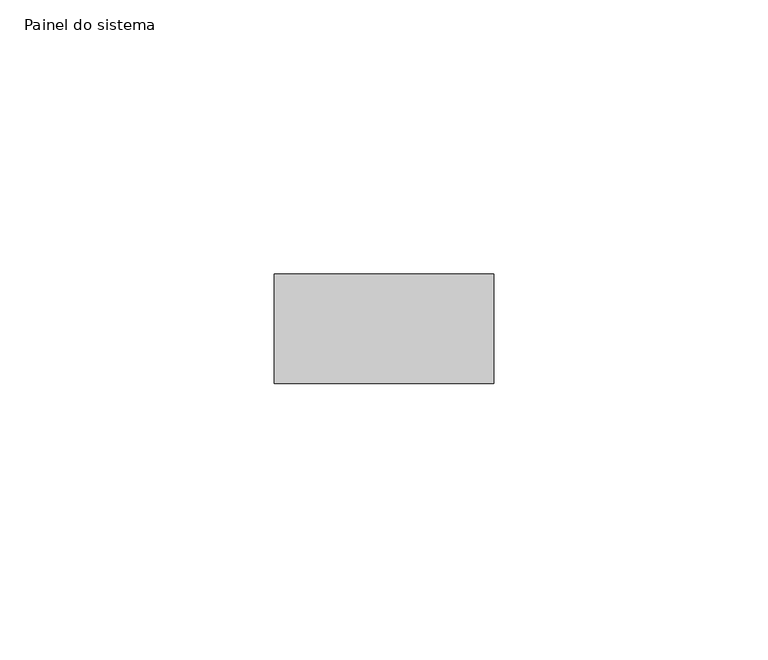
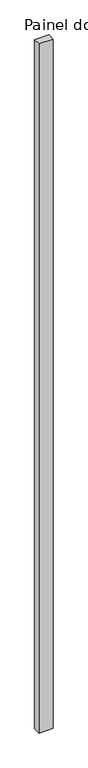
"""IFC4 building model written with IfcOpenShell, lengths in millimetres: plate geometry, Painel do sistema : Envidraçado."""

import ifcopenshell
import ifcopenshell.guid

model = None  # the IFC model being written
_history = None  # IfcOwnerHistory: only IFC2X3 demands one
_inside = {}  # id of a spatial element -> (the spatial element, [elements in it])
_under = {}  # id of a project, library or spatial element -> (it, [spatial elements below it])
_declared = {}  # id of a project -> (the project, [libraries it declares])
_typed = {}  # id of a type object -> (the type object, [elements of that type])
_made_of = {}  # id of a material, layer set ... -> (it, [elements and type objects made of it])


def new_model(schema):
    """Start an empty IFC model of exactly this schema.

    Asked for "IFC4X3", IfcOpenShell would pick the latest addendum, in which some entities
    have other attributes; the version numbers below select the first issue.
    IFC2X3 requires an IfcOwnerHistory on every rooted entity: one is made here for all.
    """
    global model, _history
    if schema == "IFC4X3":
        model = ifcopenshell.file(schema_version=(4, 3, 0, 0))
    else:
        model = ifcopenshell.file(schema=schema)
    _inside.clear()
    _under.clear()
    _declared.clear()
    _typed.clear()
    _made_of.clear()
    _history = None
    if model.schema == "IFC2X3":
        org = make("IfcOrganization", Name="unknown")
        user = make(
            "IfcPersonAndOrganization",
            ThePerson=make("IfcPerson", FamilyName="unknown"),
            TheOrganization=org,
        )
        app = make(
            "IfcApplication",
            ApplicationDeveloper=org,
            Version="unknown",
            ApplicationFullName="unknown",
            ApplicationIdentifier="unknown",
        )
        _history = make(
            "IfcOwnerHistory",
            OwningUser=user,
            OwningApplication=app,
            ChangeAction="ADDED",
            CreationDate=0,
        )
    return model


def make(cls, **values):
    """One entity of the class cls with the attributes given. An attribute that is None is left unset."""
    return model.create_entity(
        cls, **{name: value for name, value in values.items() if value is not None}
    )


def rooted(cls, **values):
    """An entity with a GlobalId (a new one), such as an element, a storey or a relation."""
    return make(cls, GlobalId=ifcopenshell.guid.new(), OwnerHistory=_history, **values)


def si_unit(unit_type, name, prefix=None):
    """IfcSIUnit, for example si_unit("LENGTHUNIT", "METRE", prefix="MILLI")."""
    return make("IfcSIUnit", UnitType=unit_type, Prefix=prefix, Name=name)


def assignment(units):
    """IfcUnitAssignment: the units of a project."""
    return None if units is None else make("IfcUnitAssignment", Units=units)


def point(xyz):
    """IfcCartesianPoint."""
    return None if xyz is None else make("IfcCartesianPoint", Coordinates=xyz)


def direction(xyz):
    """IfcDirection."""
    return None if xyz is None else make("IfcDirection", DirectionRatios=xyz)


def frame(location, z_axis=None, x_axis=None):
    """IfcAxis2Placement3D, a coordinate frame: its origin and axes. An axis left out is left unset."""
    return make(
        "IfcAxis2Placement3D",
        Location=point(location),
        Axis=direction(z_axis),
        RefDirection=direction(x_axis),
    )


def origin():
    """The frame at (0, 0, 0) with its axes left unset."""
    return frame((0.0, 0.0, 0.0))


def origin_with_axes():
    """The frame at (0, 0, 0) with the z axis (0, 0, 1) and the x axis (1, 0, 0) written out."""
    return frame((0.0, 0.0, 0.0), z_axis=(0.0, 0.0, 1.0), x_axis=(1.0, 0.0, 0.0))


def place(relative_to, where):
    """IfcLocalPlacement: puts the frame where relative to a parent placement (None: the world)."""
    return make(
        "IfcLocalPlacement", PlacementRelTo=relative_to, RelativePlacement=where
    )


def context(
    kind, dimensions, precision=None, world=None, true_north=None, identifier=None
):
    """IfcGeometricRepresentationContext, for example the 3D "Model" context."""
    return make(
        "IfcGeometricRepresentationContext",
        ContextIdentifier=identifier,
        ContextType=kind,
        CoordinateSpaceDimension=dimensions,
        Precision=precision,
        WorldCoordinateSystem=world,
        TrueNorth=true_north,
    )


def project(units=None, contexts=None):
    """IfcProject with its units and contexts."""
    return rooted(
        "IfcProject",
        Name="project",
        RepresentationContexts=contexts,
        UnitsInContext=assignment(units),
    )


def spatial(cls, under=None, at=None, **own):
    """A site, building, storey or space (cls), placed at a placement, below another one or the project."""
    s = rooted(cls, ObjectPlacement=at, **own)
    if under is not None:
        _under.setdefault(under.id(), (under, []))[1].append(s)
    return s


def polyline(points):
    """IfcPolyline through the points."""
    return make("IfcPolyline", Points=[point(p) for p in points])


def outline(outer, holes=None, kind="AREA"):
    """IfcArbitraryClosedProfileDef: a profile drawn as a closed curve; with holes, ...WithVoids."""
    if holes is None:
        return make("IfcArbitraryClosedProfileDef", ProfileType=kind, OuterCurve=outer)
    return make(
        "IfcArbitraryProfileDefWithVoids",
        ProfileType=kind,
        OuterCurve=outer,
        InnerCurves=holes,
    )


def extrude(swept, where, along, depth):
    """IfcExtrudedAreaSolid: the profile swept, set in the frame where, extruded along a direction by depth."""
    return make(
        "IfcExtrudedAreaSolid",
        SweptArea=swept,
        Position=where,
        ExtrudedDirection=direction(along),
        Depth=depth,
    )


def shape(context_of_items, identifier, shape_type, items):
    """IfcShapeRepresentation: the items that make up one representation, for example the "Body"."""
    return make(
        "IfcShapeRepresentation",
        ContextOfItems=context_of_items,
        RepresentationIdentifier=identifier,
        RepresentationType=shape_type,
        Items=items,
    )


def source(mapping_origin, context_of_items, identifier, shape_type, items):
    """IfcRepresentationMap: a shape defined once, which mapped items show again and again."""
    return make(
        "IfcRepresentationMap",
        MappingOrigin=mapping_origin,
        MappedRepresentation=shape(context_of_items, identifier, shape_type, items),
    )


def transform(
    local_origin,
    x_axis=None,
    y_axis=None,
    z_axis=None,
    scale=None,
    scale2=None,
    scale3=None,
    uniform=True,
):
    """IfcCartesianTransformationOperator3D, or its non-uniform kind. x_axis, y_axis, z_axis: its Axis1, 2, 3."""
    if uniform:
        return make(
            "IfcCartesianTransformationOperator3D",
            Axis1=direction(x_axis),
            Axis2=direction(y_axis),
            LocalOrigin=point(local_origin),
            Scale=scale,
            Axis3=direction(z_axis),
        )
    return make(
        "IfcCartesianTransformationOperator3DnonUniform",
        Axis1=direction(x_axis),
        Axis2=direction(y_axis),
        LocalOrigin=point(local_origin),
        Scale=scale,
        Axis3=direction(z_axis),
        Scale2=scale2,
        Scale3=scale3,
    )


def mapped(mapping_source, mapping_target):
    """IfcMappedItem: shows the shape of a source again, moved by a transform."""
    return make(
        "IfcMappedItem", MappingSource=mapping_source, MappingTarget=mapping_target
    )


def made_of(thing, what):
    """Note that an element or type object is made of a material, layer set ...; save() writes the relation."""
    if what is not None:
        _made_of.setdefault(what.id(), (what, []))[1].append(thing)
    return thing


def element(
    cls,
    number,
    at=None,
    inside=None,
    cuts=None,
    type_object=None,
    material=None,
    context=None,
    identifier="Body",
    shape_type=None,
    held_by="IfcProductDefinitionShape",
    body=None,
    shapes=None,
    **own,
):
    """One element of the class cls, such as IfcWall. Its Tag is "e" and its number.

    at: its placement. inside: the storey or other place that contains it. cuts: it is an
    opening in that element (IfcRelVoidsElement). A single representation is given by context,
    identifier, shape_type and body (its items); several are given by shapes. held_by: the class
    of the entity that holds the representations. save() writes the other relations.
    """
    e = rooted(cls, Tag="e%d" % number, ObjectPlacement=at, **own)
    if body is not None:
        shapes = [shape(context, identifier, shape_type, body)]
    if shapes is not None:
        e.Representation = make(held_by, Representations=shapes)
    if inside is not None:
        _inside.setdefault(inside.id(), (inside, []))[1].append(e)
    if cuts is not None:
        rooted(
            "IfcRelVoidsElement", RelatingBuildingElement=cuts, RelatedOpeningElement=e
        )
    if type_object is not None:
        _typed.setdefault(type_object.id(), (type_object, []))[1].append(e)
    return made_of(e, material)


def aggregate(whole, parts):
    """IfcRelAggregates: a whole, such as a stair, and the parts it consists of."""
    return rooted("IfcRelAggregates", RelatingObject=whole, RelatedObjects=parts)


def save(model, path):
    """Write the relations noted so far, then the file.

    IfcRelAggregates (storeys below a building ...), IfcRelContainedInSpatialStructure (elements
    in a storey), IfcRelDefinesByType, IfcRelAssociatesMaterial and IfcRelDeclares: one each for
    every whole, place, type object, material and project.
    """
    for whole, parts in _under.values():
        aggregate(whole, parts)
    for where, things in _inside.values():
        rooted(
            "IfcRelContainedInSpatialStructure",
            RelatedElements=things,
            RelatingStructure=where,
        )
    for kind, things in _typed.values():
        rooted("IfcRelDefinesByType", RelatedObjects=things, RelatingType=kind)
    for what, things in _made_of.values():
        rooted("IfcRelAssociatesMaterial", RelatedObjects=things, RelatingMaterial=what)
    for by, libraries in _declared.values():
        rooted("IfcRelDeclares", RelatingContext=by, RelatedDefinitions=libraries)
    model.write(path)


def painel_do_sistema_acf0908f(model_context):
    return source(origin(), model_context, "Body", "SweptSolid", [
        extrude(outline(polyline([(19.9999998, -10.0), (-19.9999998, -10.0), (-19.9999998, 10.0), (19.9999998, 10.0), (19.9999998, -10.0)])), origin_with_axes(), (0.0, 0.0, 1.0), 2040.0),
    ])


if __name__ == "__main__":
    model = new_model("IFC4")
    model_context = context("Model", 3, world=origin())
    ifc_project = project(units=[si_unit("LENGTHUNIT", "METRE", prefix="MILLI")], contexts=[model_context])
    site = spatial("IfcSite", under=ifc_project)
    building = spatial("IfcBuilding", under=site)
    placement = place(None, origin())
    painel_do_sistema_shape = painel_do_sistema_acf0908f(model_context)
    element("IfcPlate", 1, ObjectType="Painel do sistema : Envidraçado", at=placement, inside=building, context=model_context, shape_type="MappedRepresentation", body=[
        mapped(painel_do_sistema_shape, transform((0.0, 0.0, 0.0), x_axis=(1.0, 0.0, 0.0), y_axis=(0.0, 1.0, 0.0), z_axis=(0.0, 0.0, 1.0))),
    ])
    save(model, "model.ifc")
